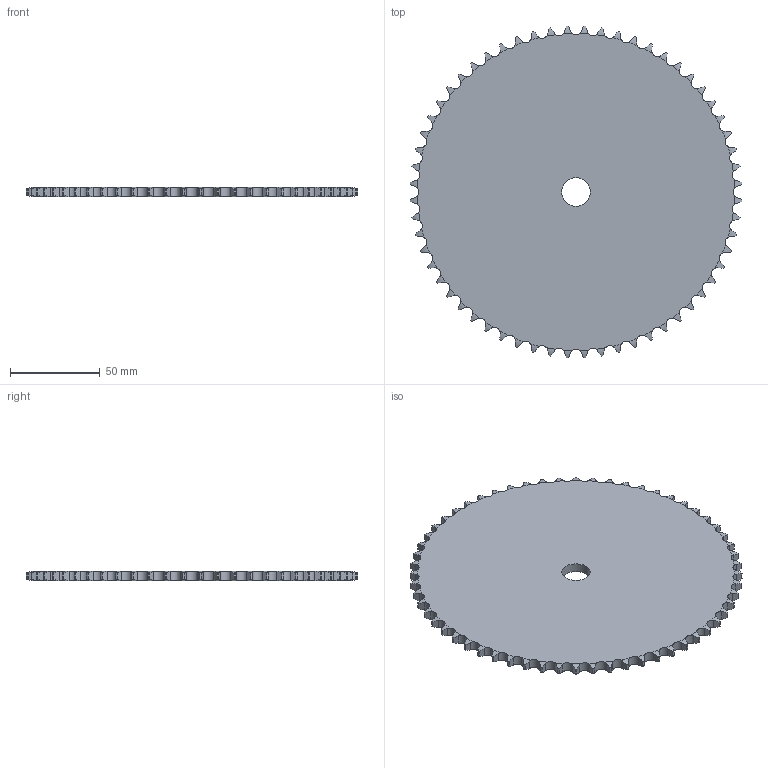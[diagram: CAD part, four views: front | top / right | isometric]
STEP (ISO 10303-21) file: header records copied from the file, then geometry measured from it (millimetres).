
FILE_DESCRIPTION((''),'2;1');
FILE_NAME('500-101-0060_PRT','2021-02-12T',('Brieden'),('Brieden'),'PRO/ENGINEER BY PARAMETRIC TECHNOLOGY CORPORATION, 2010160','PRO/ENGINEER BY PARAMETRIC TECHNOLOGY CORPORATION, 2010160','');
FILE_SCHEMA(('AUTOMOTIVE_DESIGN { 1 0 10303 214 1 1 1 1 }'));
Length unit declared in the file: millimetre
Products named in the file (1): 500-101-0060_PRT
Bounding box: 185.22 x 185.22 x 5.3 mm (x, y, z)
Volume: 132246.2 mm3; surface area: 54576.1 mm2
Topology: 1 solids, 1 shells, 364 faces, 1086 edges, 724 vertices
Faces by surface type: cylinder 242, torus 120, plane 2
Entity records: 17848 total; most frequent: CARTESIAN_POINT 5319, ORIENTED_EDGE 2172, DIRECTION 1698, PRESENTATION_STYLE_ASSIGNMENT 1087, STYLED_ITEM 1087, CURVE_STYLE 1086, EDGE_CURVE 1086, AXIS2_PLACEMENT_3D 728
